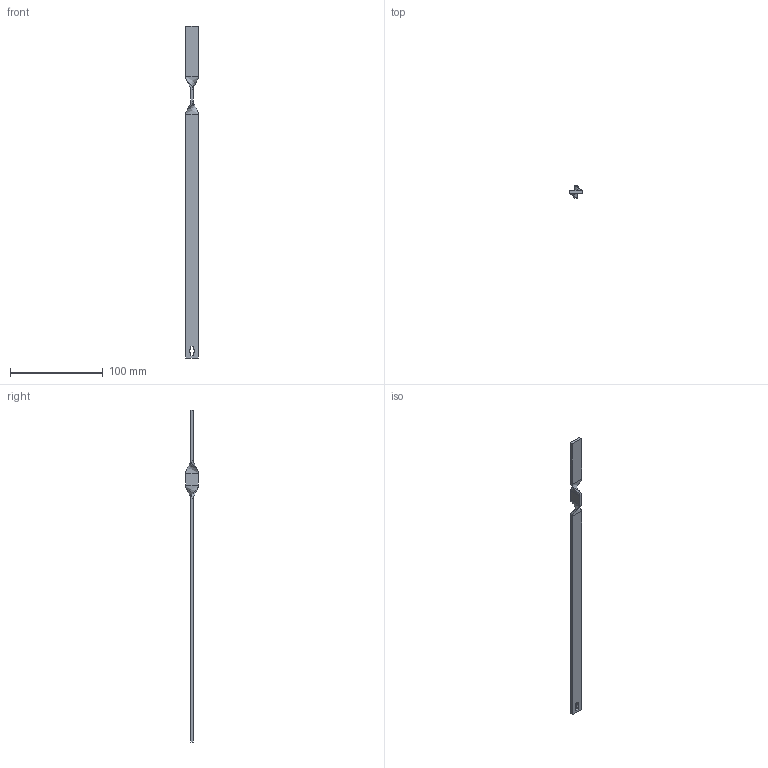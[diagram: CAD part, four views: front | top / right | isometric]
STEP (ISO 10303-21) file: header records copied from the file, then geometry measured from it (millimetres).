
FILE_DESCRIPTION (( 'STEP AP214' ), '1' );
FILE_NAME ('PP190-351.STEP', '2016-09-08T07:50:45', ( '' ), ( '' ), 'SwSTEP 2.0', 'SolidWorks 2015', '' );
FILE_SCHEMA (( 'AUTOMOTIVE_DESIGN' ));
Length unit declared in the file: millimetre
Products named in the file (1): PP190-351
Bounding box: 14 x 14 x 358.5 mm (x, y, z)
Volume: 14623.6 mm3; surface area: 12189 mm2
Topology: 1 solids, 1 shells, 30 faces, 68 edges, 40 vertices
Faces by surface type: plane 20, bspline 8, cylinder 2
Entity records: 982 total; most frequent: CARTESIAN_POINT 315, ORIENTED_EDGE 136, DIRECTION 110, EDGE_CURVE 68, VECTOR 56, LINE 56, VERTEX_POINT 40, EDGE_LOOP 32
